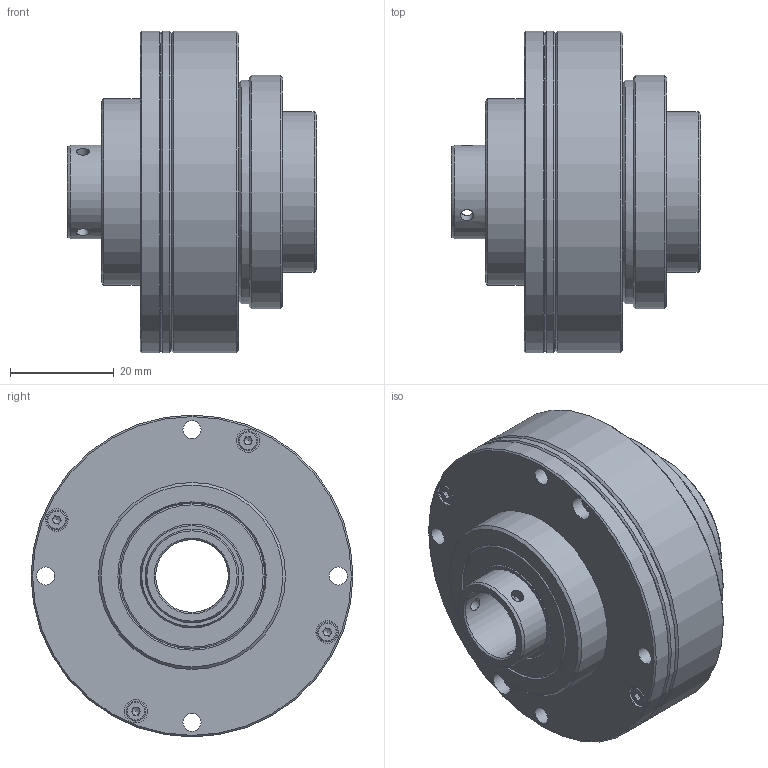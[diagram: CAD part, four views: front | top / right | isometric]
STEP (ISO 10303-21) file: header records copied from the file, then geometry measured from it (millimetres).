
FILE_DESCRIPTION (( 'STEP AP203' ), '1' );
FILE_NAME ('LHS-11-XXX-C-III.STEP', '2024-09-02T02:34:51', ( '' ), ( '' ), 'SwSTEP 2.0', 'SolidWorks 2023', '' );
FILE_SCHEMA (( 'CONFIG_CONTROL_DESIGN' ));
Length unit declared in the file: millimetre
Products named in the file (1): LHS-11-XXX-C-III
Bounding box: 48 x 62 x 62 mm (x, y, z)
Volume: 61255.9 mm3; surface area: 60519.2 mm2
Topology: 51 solids, 51 shells, 658 faces, 1785 edges, 1137 vertices
Faces by surface type: plane 231, cylinder 164, torus 97, cone 92, sphere 74
Full cylindrical faces by diameter (mm): 1.6 x4, 2 x4, 2.05 x6, 2.4 x6, 2.5 x15, 2.9 x6, 3.4 x12, 3.5 x12, 3.8 x4, 4.3 x2, 4.5 x8, 5 x6, 14 x2, 14.5 x1, 18 x1, 20 x5, 22 x4, 22.4 x2, 22.8 x2, 23.8 x1, 24 x4, 24.2 x2, 25 x2, 25.8 x1, 26 x3, 27 x2, 27.56 x2, 28 x6, 28.8 x2, 29.2 x1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
Entity records: 19941 total; most frequent: CARTESIAN_POINT 6093, DIRECTION 2834, ORIENTED_EDGE 2374, AXIS2_PLACEMENT_3D 1297, EDGE_CURVE 1187, EDGE_LOOP 1159, VERTEX_POINT 914, FACE_OUTER_BOUND 793
